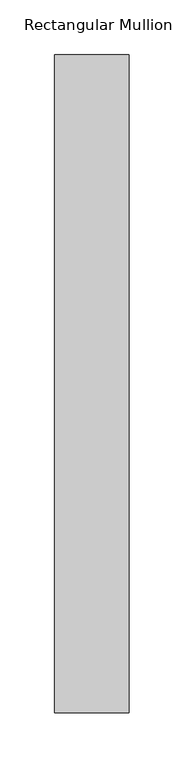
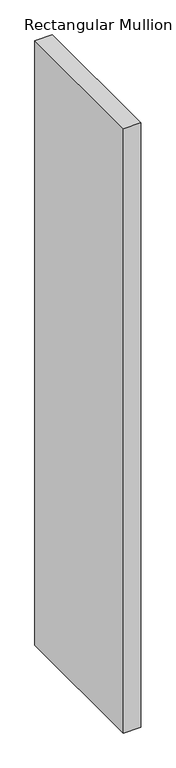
"""IFC4 building model written with IfcOpenShell, lengths in millimetres: member geometry, Rectangular Mullion : DucoSun Cubic Design louvre 600."""

import ifcopenshell
import ifcopenshell.guid

model = None  # the IFC model being written
_history = None  # IfcOwnerHistory: only IFC2X3 demands one
_inside = {}  # id of a spatial element -> (the spatial element, [elements in it])
_under = {}  # id of a project, library or spatial element -> (it, [spatial elements below it])
_declared = {}  # id of a project -> (the project, [libraries it declares])
_typed = {}  # id of a type object -> (the type object, [elements of that type])
_made_of = {}  # id of a material, layer set ... -> (it, [elements and type objects made of it])


def new_model(schema):
    """Start an empty IFC model of exactly this schema.

    Asked for "IFC4X3", IfcOpenShell would pick the latest addendum, in which some entities
    have other attributes; the version numbers below select the first issue.
    IFC2X3 requires an IfcOwnerHistory on every rooted entity: one is made here for all.
    """
    global model, _history
    if schema == "IFC4X3":
        model = ifcopenshell.file(schema_version=(4, 3, 0, 0))
    else:
        model = ifcopenshell.file(schema=schema)
    _inside.clear()
    _under.clear()
    _declared.clear()
    _typed.clear()
    _made_of.clear()
    _history = None
    if model.schema == "IFC2X3":
        org = make("IfcOrganization", Name="unknown")
        user = make(
            "IfcPersonAndOrganization",
            ThePerson=make("IfcPerson", FamilyName="unknown"),
            TheOrganization=org,
        )
        app = make(
            "IfcApplication",
            ApplicationDeveloper=org,
            Version="unknown",
            ApplicationFullName="unknown",
            ApplicationIdentifier="unknown",
        )
        _history = make(
            "IfcOwnerHistory",
            OwningUser=user,
            OwningApplication=app,
            ChangeAction="ADDED",
            CreationDate=0,
        )
    return model


def make(cls, **values):
    """One entity of the class cls with the attributes given. An attribute that is None is left unset."""
    return model.create_entity(
        cls, **{name: value for name, value in values.items() if value is not None}
    )


def rooted(cls, **values):
    """An entity with a GlobalId (a new one), such as an element, a storey or a relation."""
    return make(cls, GlobalId=ifcopenshell.guid.new(), OwnerHistory=_history, **values)


def si_unit(unit_type, name, prefix=None):
    """IfcSIUnit, for example si_unit("LENGTHUNIT", "METRE", prefix="MILLI")."""
    return make("IfcSIUnit", UnitType=unit_type, Prefix=prefix, Name=name)


def assignment(units):
    """IfcUnitAssignment: the units of a project."""
    return None if units is None else make("IfcUnitAssignment", Units=units)


def point(xyz):
    """IfcCartesianPoint."""
    return None if xyz is None else make("IfcCartesianPoint", Coordinates=xyz)


def direction(xyz):
    """IfcDirection."""
    return None if xyz is None else make("IfcDirection", DirectionRatios=xyz)


def frame(location, z_axis=None, x_axis=None):
    """IfcAxis2Placement3D, a coordinate frame: its origin and axes. An axis left out is left unset."""
    return make(
        "IfcAxis2Placement3D",
        Location=point(location),
        Axis=direction(z_axis),
        RefDirection=direction(x_axis),
    )


def origin():
    """The frame at (0, 0, 0) with its axes left unset."""
    return frame((0.0, 0.0, 0.0))


def place(relative_to, where):
    """IfcLocalPlacement: puts the frame where relative to a parent placement (None: the world)."""
    return make(
        "IfcLocalPlacement", PlacementRelTo=relative_to, RelativePlacement=where
    )


def context(
    kind, dimensions, precision=None, world=None, true_north=None, identifier=None
):
    """IfcGeometricRepresentationContext, for example the 3D "Model" context."""
    return make(
        "IfcGeometricRepresentationContext",
        ContextIdentifier=identifier,
        ContextType=kind,
        CoordinateSpaceDimension=dimensions,
        Precision=precision,
        WorldCoordinateSystem=world,
        TrueNorth=true_north,
    )


def project(units=None, contexts=None):
    """IfcProject with its units and contexts."""
    return rooted(
        "IfcProject",
        Name="project",
        RepresentationContexts=contexts,
        UnitsInContext=assignment(units),
    )


def spatial(cls, under=None, at=None, **own):
    """A site, building, storey or space (cls), placed at a placement, below another one or the project."""
    s = rooted(cls, ObjectPlacement=at, **own)
    if under is not None:
        _under.setdefault(under.id(), (under, []))[1].append(s)
    return s


def polyline(points):
    """IfcPolyline through the points."""
    return make("IfcPolyline", Points=[point(p) for p in points])


def outline(outer, holes=None, kind="AREA"):
    """IfcArbitraryClosedProfileDef: a profile drawn as a closed curve; with holes, ...WithVoids."""
    if holes is None:
        return make("IfcArbitraryClosedProfileDef", ProfileType=kind, OuterCurve=outer)
    return make(
        "IfcArbitraryProfileDefWithVoids",
        ProfileType=kind,
        OuterCurve=outer,
        InnerCurves=holes,
    )


def extrude(swept, where, along, depth):
    """IfcExtrudedAreaSolid: the profile swept, set in the frame where, extruded along a direction by depth."""
    return make(
        "IfcExtrudedAreaSolid",
        SweptArea=swept,
        Position=where,
        ExtrudedDirection=direction(along),
        Depth=depth,
    )


def shape(context_of_items, identifier, shape_type, items):
    """IfcShapeRepresentation: the items that make up one representation, for example the "Body"."""
    return make(
        "IfcShapeRepresentation",
        ContextOfItems=context_of_items,
        RepresentationIdentifier=identifier,
        RepresentationType=shape_type,
        Items=items,
    )


def source(mapping_origin, context_of_items, identifier, shape_type, items):
    """IfcRepresentationMap: a shape defined once, which mapped items show again and again."""
    return make(
        "IfcRepresentationMap",
        MappingOrigin=mapping_origin,
        MappedRepresentation=shape(context_of_items, identifier, shape_type, items),
    )


def transform(
    local_origin,
    x_axis=None,
    y_axis=None,
    z_axis=None,
    scale=None,
    scale2=None,
    scale3=None,
    uniform=True,
):
    """IfcCartesianTransformationOperator3D, or its non-uniform kind. x_axis, y_axis, z_axis: its Axis1, 2, 3."""
    if uniform:
        return make(
            "IfcCartesianTransformationOperator3D",
            Axis1=direction(x_axis),
            Axis2=direction(y_axis),
            LocalOrigin=point(local_origin),
            Scale=scale,
            Axis3=direction(z_axis),
        )
    return make(
        "IfcCartesianTransformationOperator3DnonUniform",
        Axis1=direction(x_axis),
        Axis2=direction(y_axis),
        LocalOrigin=point(local_origin),
        Scale=scale,
        Axis3=direction(z_axis),
        Scale2=scale2,
        Scale3=scale3,
    )


def mapped(mapping_source, mapping_target):
    """IfcMappedItem: shows the shape of a source again, moved by a transform."""
    return make(
        "IfcMappedItem", MappingSource=mapping_source, MappingTarget=mapping_target
    )


def made_of(thing, what):
    """Note that an element or type object is made of a material, layer set ...; save() writes the relation."""
    if what is not None:
        _made_of.setdefault(what.id(), (what, []))[1].append(thing)
    return thing


def element(
    cls,
    number,
    at=None,
    inside=None,
    cuts=None,
    type_object=None,
    material=None,
    context=None,
    identifier="Body",
    shape_type=None,
    held_by="IfcProductDefinitionShape",
    body=None,
    shapes=None,
    **own,
):
    """One element of the class cls, such as IfcWall. Its Tag is "e" and its number.

    at: its placement. inside: the storey or other place that contains it. cuts: it is an
    opening in that element (IfcRelVoidsElement). A single representation is given by context,
    identifier, shape_type and body (its items); several are given by shapes. held_by: the class
    of the entity that holds the representations. save() writes the other relations.
    """
    e = rooted(cls, Tag="e%d" % number, ObjectPlacement=at, **own)
    if body is not None:
        shapes = [shape(context, identifier, shape_type, body)]
    if shapes is not None:
        e.Representation = make(held_by, Representations=shapes)
    if inside is not None:
        _inside.setdefault(inside.id(), (inside, []))[1].append(e)
    if cuts is not None:
        rooted(
            "IfcRelVoidsElement", RelatingBuildingElement=cuts, RelatedOpeningElement=e
        )
    if type_object is not None:
        _typed.setdefault(type_object.id(), (type_object, []))[1].append(e)
    return made_of(e, material)


def aggregate(whole, parts):
    """IfcRelAggregates: a whole, such as a stair, and the parts it consists of."""
    return rooted("IfcRelAggregates", RelatingObject=whole, RelatedObjects=parts)


def save(model, path):
    """Write the relations noted so far, then the file.

    IfcRelAggregates (storeys below a building ...), IfcRelContainedInSpatialStructure (elements
    in a storey), IfcRelDefinesByType, IfcRelAssociatesMaterial and IfcRelDeclares: one each for
    every whole, place, type object, material and project.
    """
    for whole, parts in _under.values():
        aggregate(whole, parts)
    for where, things in _inside.values():
        rooted(
            "IfcRelContainedInSpatialStructure",
            RelatedElements=things,
            RelatingStructure=where,
        )
    for kind, things in _typed.values():
        rooted("IfcRelDefinesByType", RelatedObjects=things, RelatingType=kind)
    for what, things in _made_of.values():
        rooted("IfcRelAssociatesMaterial", RelatedObjects=things, RelatingMaterial=what)
    for by, libraries in _declared.values():
        rooted("IfcRelDeclares", RelatingContext=by, RelatedDefinitions=libraries)
    model.write(path)


def rectangular_mullion_80ae17ec(model_context):
    return source(origin(), model_context, "Body", "SweptSolid", [
        extrude(outline(polyline([(0.0, 600.0), (0.0, 0.0), (-68.0, 0.0), (-68.0, 600.0), (0.0, 600.0)])), frame((0.0, 0.0, -2500.0), z_axis=(0.0, 0.0, 1.0), x_axis=(1.0, 0.0, 0.0)), (0.0, 0.0, 1.0), 2500.0),
    ])


if __name__ == "__main__":
    model = new_model("IFC4")
    model_context = context("Model", 3, world=origin())
    ifc_project = project(units=[si_unit("LENGTHUNIT", "METRE", prefix="MILLI")], contexts=[model_context])
    site = spatial("IfcSite", under=ifc_project)
    building = spatial("IfcBuilding", under=site)
    placement = place(None, origin())
    rectangular_mullion_shape = rectangular_mullion_80ae17ec(model_context)
    element("IfcMember", 1, ObjectType="Rectangular Mullion : DucoSun Cubic Design louvre 600", at=placement, inside=building, context=model_context, shape_type="MappedRepresentation", body=[
        mapped(rectangular_mullion_shape, transform((0.0, 0.0, 0.0), x_axis=(1.0, 0.0, 0.0), y_axis=(0.0, 1.0, 0.0), z_axis=(0.0, 0.0, 1.0))),
    ])
    save(model, "model.ifc")
